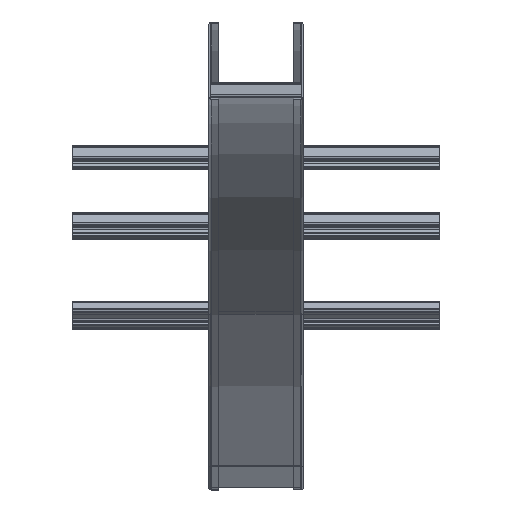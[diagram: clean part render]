
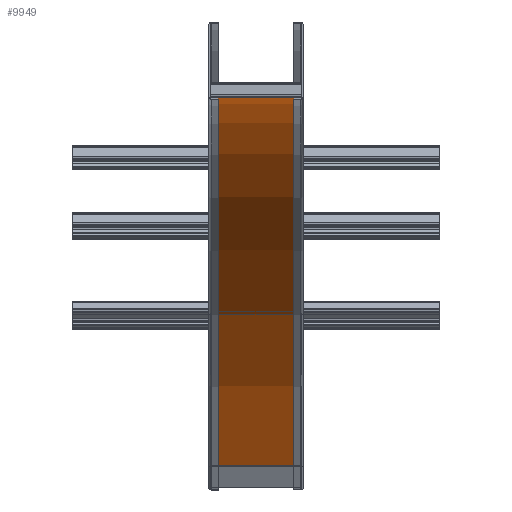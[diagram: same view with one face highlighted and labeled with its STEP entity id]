
A CAD part, top view. The second image highlights one B-rep face of the part: STEP entity #9949.
In plain terms, the highlighted cylindrical face has radius 1221.23 mm (diameter 2442.46 mm), a partial arc.
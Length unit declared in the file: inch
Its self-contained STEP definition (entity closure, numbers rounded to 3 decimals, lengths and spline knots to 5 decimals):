
#9783=DIRECTION('',(-1.,0.,0.));
#9784=VECTOR('',#9783,5.875);
#9785=CARTESIAN_POINT('',(2.9375,0.,0.));
#9786=LINE('',#9785,#9784);
#9787=CARTESIAN_POINT('',(2.9375,48.08,0.));
#9788=DIRECTION('',(-1.,0.,0.));
#9789=DIRECTION('',(0.,-1.,0.));
#9790=AXIS2_PLACEMENT_3D('',#9787,#9788,#9789);
#9813=CARTESIAN_POINT('',(-2.9375,48.08,0.));
#9814=DIRECTION('',(-1.,0.,0.));
#9815=DIRECTION('',(0.,-1.,0.));
#9816=AXIS2_PLACEMENT_3D('',#9813,#9814,#9815);
#9839=DIRECTION('',(-1.,0.,0.));
#9840=VECTOR('',#9839,5.875);
#9841=CARTESIAN_POINT('',(2.9375,24.04,41.6385));
#9842=LINE('',#9841,#9840);
#9887=CARTESIAN_POINT('',(2.9375,0.,0.));
#9889=VERTEX_POINT('',#9887);
#9893=CARTESIAN_POINT('',(-2.9375,0.,0.));
#9894=VERTEX_POINT('',#9893);
#9903=CARTESIAN_POINT('',(2.9375,24.04,41.6385));
#9904=VERTEX_POINT('',#9903);
#9907=CARTESIAN_POINT('',(-2.9375,24.04,41.6385));
#9908=VERTEX_POINT('',#9907);
#9935=CARTESIAN_POINT('',(2.9375,48.08,0.));
#9936=DIRECTION('',(-1.,0.,0.));
#9937=DIRECTION('',(0.,0.,1.));
#9938=AXIS2_PLACEMENT_3D('',#9935,#9936,#9937);
#9939=CYLINDRICAL_SURFACE('',#9938,48.08);
#9941=ORIENTED_EDGE('',*,*,#9940,.T.);
#9943=ORIENTED_EDGE('',*,*,#9942,.T.);
#9945=ORIENTED_EDGE('',*,*,#9944,.F.);
#9946=ORIENTED_EDGE('',*,*,#9924,.F.);
#9947=EDGE_LOOP('',(#9941,#9943,#9945,#9946));
#9948=FACE_OUTER_BOUND('',#9947,.F.);
#9949=ADVANCED_FACE('',(#9948),#9939,.F.);
#9791=CIRCLE('',#9790,48.08);
#9817=CIRCLE('',#9816,48.08);
#9924=EDGE_CURVE('',#9889,#9894,#9786,.T.);
#9940=EDGE_CURVE('',#9889,#9904,#9791,.T.);
#9942=EDGE_CURVE('',#9904,#9908,#9842,.T.);
#9944=EDGE_CURVE('',#9894,#9908,#9817,.T.);
